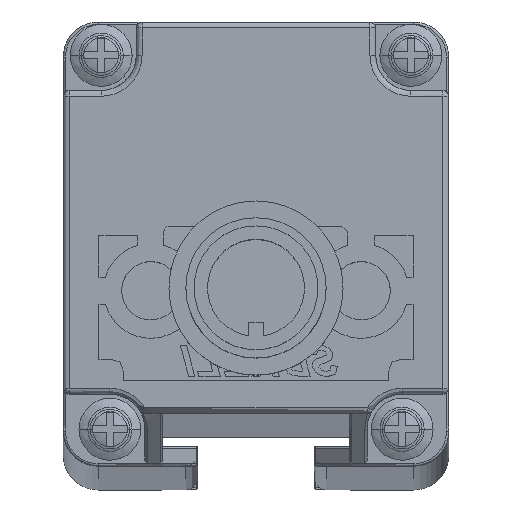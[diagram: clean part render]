
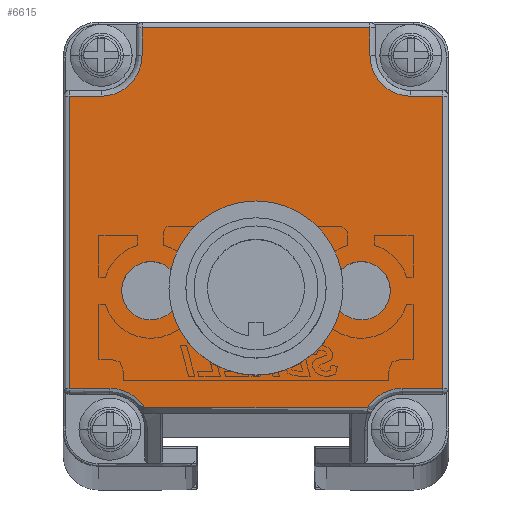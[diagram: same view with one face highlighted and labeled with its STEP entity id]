
A CAD part, top view. The second image highlights one B-rep face of the part: STEP entity #6615.
In plain terms, the highlighted planar face has unit normal (0, 0, 1).
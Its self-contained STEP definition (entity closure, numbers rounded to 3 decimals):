
#2629=CARTESIAN_POINT('',(0.65,-8.054,
1045.276));
#2630=DIRECTION('',(0.,0.,1.));
#2631=DIRECTION('',(1.,0.,0.));
#2632=AXIS2_PLACEMENT_3D('',#2629,#2630,#2631);
#2634=CARTESIAN_POINT('',(0.65,-8.054,
1045.276));
#2635=DIRECTION('',(0.,0.,1.));
#2636=DIRECTION('',(-1.,0.,0.));
#2637=AXIS2_PLACEMENT_3D('',#2634,#2635,#2636);
#2639=CARTESIAN_POINT('',(9.65,-8.055,1045.276));
#2640=DIRECTION('',(0.,0.,1.));
#2641=DIRECTION('',(1.,-0.007,0.));
#2642=AXIS2_PLACEMENT_3D('',#2639,#2640,#2641);
#2644=CARTESIAN_POINT('',(9.65,-8.055,1045.276));
#2645=DIRECTION('',(0.,0.,1.));
#2646=DIRECTION('',(-1.,0.007,0.));
#2647=AXIS2_PLACEMENT_3D('',#2644,#2645,#2646);
#2649=CARTESIAN_POINT('',(-8.35,-8.054,
1045.276));
#2650=DIRECTION('',(0.,0.,1.));
#2651=DIRECTION('',(1.,0.007,0.));
#2652=AXIS2_PLACEMENT_3D('',#2649,#2650,#2651);
#2654=CARTESIAN_POINT('',(-8.35,-8.054,
1045.276));
#2655=DIRECTION('',(0.,0.,1.));
#2656=DIRECTION('',(-1.,-0.007,0.));
#2657=AXIS2_PLACEMENT_3D('',#2654,#2655,#2656);
#2659=CARTESIAN_POINT('',(-11.85,-19.904,
1045.276));
#2660=DIRECTION('',(0.,0.,1.));
#2661=DIRECTION('',(0.849,0.528,0.));
#2662=AXIS2_PLACEMENT_3D('',#2659,#2660,#2661);
#2664=CARTESIAN_POINT('',(-12.6,12.094,1045.276));
#2665=DIRECTION('',(0.,0.,1.));
#2666=DIRECTION('',(0.,-1.,0.));
#2667=AXIS2_PLACEMENT_3D('',#2664,#2665,#2666);
#2669=CARTESIAN_POINT('',(13.9,12.094,1045.276));
#2670=DIRECTION('',(0.,0.,1.));
#2671=DIRECTION('',(-1.,0.,0.));
#2672=AXIS2_PLACEMENT_3D('',#2669,#2670,#2671);
#2674=CARTESIAN_POINT('',(13.15,-19.904,1045.276));
#2675=DIRECTION('',(0.,0.,1.));
#2676=DIRECTION('',(0.,1.,0.));
#2677=AXIS2_PLACEMENT_3D('',#2674,#2675,#2676);
#4225=DIRECTION('',(1.,0.,0.));
#4226=VECTOR('',#4225,19.056);
#4227=CARTESIAN_POINT('',(-8.878,-18.056,
1045.276));
#4228=LINE('',#4227,#4226);
#4489=DIRECTION('',(1.,0.,0.));
#4490=VECTOR('',#4489,3.5);
#4491=CARTESIAN_POINT('',(13.15,-16.404,1045.276));
#4492=LINE('',#4491,#4490);
#5126=DIRECTION('',(0.,1.,0.));
#5127=VECTOR('',#5126,2.35);
#5128=CARTESIAN_POINT('',(10.4,12.094,1045.276));
#5129=LINE('',#5128,#5127);
#5149=DIRECTION('',(-1.,0.,0.));
#5150=VECTOR('',#5149,19.5);
#5151=CARTESIAN_POINT('',(10.4,14.444,1045.276));
#5152=LINE('',#5151,#5150);
#5173=DIRECTION('',(0.,-1.,0.));
#5174=VECTOR('',#5173,2.35);
#5175=CARTESIAN_POINT('',(-9.1,14.444,1045.276));
#5176=LINE('',#5175,#5174);
#5200=DIRECTION('',(-1.,0.,0.));
#5201=VECTOR('',#5200,2.75);
#5202=CARTESIAN_POINT('',(-12.6,8.594,1045.276));
#5203=LINE('',#5202,#5201);
#5231=DIRECTION('',(0.,-1.,0.));
#5232=VECTOR('',#5231,24.998);
#5233=CARTESIAN_POINT('',(-15.35,8.594,1045.276));
#5234=LINE('',#5233,#5232);
#5255=DIRECTION('',(1.,0.,0.));
#5256=VECTOR('',#5255,3.5);
#5257=CARTESIAN_POINT('',(-15.35,-16.404,
1045.276));
#5258=LINE('',#5257,#5256);
#5319=DIRECTION('',(-1.,0.,0.));
#5320=VECTOR('',#5319,2.75);
#5321=CARTESIAN_POINT('',(16.65,8.594,1045.276));
#5322=LINE('',#5321,#5320);
#5378=DIRECTION('',(0.,1.,0.));
#5379=VECTOR('',#5378,24.998);
#5380=CARTESIAN_POINT('',(16.65,-16.404,1045.276));
#5381=LINE('',#5380,#5379);
#5725=CARTESIAN_POINT('',(12.15,-8.072,1045.276));
#5726=VERTEX_POINT('',#5725);
#5727=CARTESIAN_POINT('',(7.15,-8.039,1045.276));
#5728=VERTEX_POINT('',#5727);
#5729=CARTESIAN_POINT('',(-8.878,-18.056,
1045.276));
#5730=CARTESIAN_POINT('',(-11.85,-16.404,
1045.276));
#5731=VERTEX_POINT('',#5729);
#5732=VERTEX_POINT('',#5730);
#5733=CARTESIAN_POINT('',(-15.35,-16.404,
1045.276));
#5734=VERTEX_POINT('',#5733);
#5735=CARTESIAN_POINT('',(-15.35,8.594,1045.276));
#5736=VERTEX_POINT('',#5735);
#5737=CARTESIAN_POINT('',(-12.6,8.594,1045.276));
#5738=VERTEX_POINT('',#5737);
#5739=CARTESIAN_POINT('',(-9.1,12.094,1045.276));
#5740=VERTEX_POINT('',#5739);
#5741=CARTESIAN_POINT('',(-9.1,14.444,1045.276));
#5742=VERTEX_POINT('',#5741);
#5743=CARTESIAN_POINT('',(10.4,14.444,1045.276));
#5744=VERTEX_POINT('',#5743);
#5745=CARTESIAN_POINT('',(10.4,12.094,1045.276));
#5746=VERTEX_POINT('',#5745);
#5747=CARTESIAN_POINT('',(13.9,8.594,1045.276));
#5748=VERTEX_POINT('',#5747);
#5749=CARTESIAN_POINT('',(16.65,8.594,1045.276));
#5750=VERTEX_POINT('',#5749);
#5751=CARTESIAN_POINT('',(16.65,-16.404,1045.276));
#5752=VERTEX_POINT('',#5751);
#5753=CARTESIAN_POINT('',(13.15,-16.404,1045.276));
#5754=VERTEX_POINT('',#5753);
#5755=CARTESIAN_POINT('',(10.178,-18.056,1045.276));
#5756=VERTEX_POINT('',#5755);
#5757=CARTESIAN_POINT('',(-5.85,-8.037,
1045.276));
#5758=CARTESIAN_POINT('',(-10.85,-8.07,
1045.276));
#5759=VERTEX_POINT('',#5757);
#5760=VERTEX_POINT('',#5758);
#5761=CARTESIAN_POINT('',(3.65,-8.054,1045.276));
#5762=CARTESIAN_POINT('',(-2.35,-8.054,
1045.276));
#5763=VERTEX_POINT('',#5761);
#5764=VERTEX_POINT('',#5762);
#6564=CARTESIAN_POINT('',(0.65,0.944,
1045.276));
#6565=DIRECTION('',(0.,0.,1.));
#6566=DIRECTION('',(1.,0.,0.));
#6567=AXIS2_PLACEMENT_3D('',#6564,#6565,#6566);
#6568=PLANE('',#6567);
#6570=ORIENTED_EDGE('',*,*,#6569,.T.);
#6572=ORIENTED_EDGE('',*,*,#6571,.F.);
#6574=ORIENTED_EDGE('',*,*,#6573,.F.);
#6576=ORIENTED_EDGE('',*,*,#6575,.F.);
#6578=ORIENTED_EDGE('',*,*,#6577,.T.);
#6580=ORIENTED_EDGE('',*,*,#6579,.F.);
#6582=ORIENTED_EDGE('',*,*,#6581,.F.);
#6584=ORIENTED_EDGE('',*,*,#6583,.F.);
#6586=ORIENTED_EDGE('',*,*,#6585,.T.);
#6588=ORIENTED_EDGE('',*,*,#6587,.F.);
#6590=ORIENTED_EDGE('',*,*,#6589,.F.);
#6592=ORIENTED_EDGE('',*,*,#6591,.F.);
#6594=ORIENTED_EDGE('',*,*,#6593,.T.);
#6596=ORIENTED_EDGE('',*,*,#6595,.F.);
#6597=EDGE_LOOP('',(#6570,#6572,#6574,#6576,#6578,#6580,#6582,#6584,#6586,#6588,
#6590,#6592,#6594,#6596));
#6598=FACE_OUTER_BOUND('',#6597,.F.);
#6599=ORIENTED_EDGE('',*,*,#6551,.T.);
#6600=ORIENTED_EDGE('',*,*,#6512,.T.);
#6601=EDGE_LOOP('',(#6599,#6600));
#6602=FACE_BOUND('',#6601,.F.);
#6604=ORIENTED_EDGE('',*,*,#6603,.T.);
#6606=ORIENTED_EDGE('',*,*,#6605,.T.);
#6607=EDGE_LOOP('',(#6604,#6606));
#6608=FACE_BOUND('',#6607,.F.);
#6610=ORIENTED_EDGE('',*,*,#6609,.T.);
#6612=ORIENTED_EDGE('',*,*,#6611,.T.);
#6613=EDGE_LOOP('',(#6610,#6612));
#6614=FACE_BOUND('',#6613,.F.);
#2633=CIRCLE('',#2632,3.);
#2638=CIRCLE('',#2637,3.);
#2643=CIRCLE('',#2642,2.5);
#2648=CIRCLE('',#2647,2.5);
#2653=CIRCLE('',#2652,2.5);
#2658=CIRCLE('',#2657,2.5);
#2663=CIRCLE('',#2662,3.5);
#2668=CIRCLE('',#2667,3.5);
#2673=CIRCLE('',#2672,3.5);
#2678=CIRCLE('',#2677,3.5);
#6512=EDGE_CURVE('',#5728,#5726,#2648,.T.);
#6551=EDGE_CURVE('',#5726,#5728,#2643,.T.);
#6569=EDGE_CURVE('',#5731,#5732,#2663,.T.);
#6571=EDGE_CURVE('',#5734,#5732,#5258,.T.);
#6573=EDGE_CURVE('',#5736,#5734,#5234,.T.);
#6575=EDGE_CURVE('',#5738,#5736,#5203,.T.);
#6577=EDGE_CURVE('',#5738,#5740,#2668,.T.);
#6579=EDGE_CURVE('',#5742,#5740,#5176,.T.);
#6581=EDGE_CURVE('',#5744,#5742,#5152,.T.);
#6583=EDGE_CURVE('',#5746,#5744,#5129,.T.);
#6585=EDGE_CURVE('',#5746,#5748,#2673,.T.);
#6587=EDGE_CURVE('',#5750,#5748,#5322,.T.);
#6589=EDGE_CURVE('',#5752,#5750,#5381,.T.);
#6591=EDGE_CURVE('',#5754,#5752,#4492,.T.);
#6593=EDGE_CURVE('',#5754,#5756,#2678,.T.);
#6595=EDGE_CURVE('',#5731,#5756,#4228,.T.);
#6603=EDGE_CURVE('',#5759,#5760,#2653,.T.);
#6605=EDGE_CURVE('',#5760,#5759,#2658,.T.);
#6609=EDGE_CURVE('',#5763,#5764,#2633,.T.);
#6611=EDGE_CURVE('',#5764,#5763,#2638,.T.);
#6615=ADVANCED_FACE('',(#6598,#6602,#6608,#6614),#6568,.T.);
